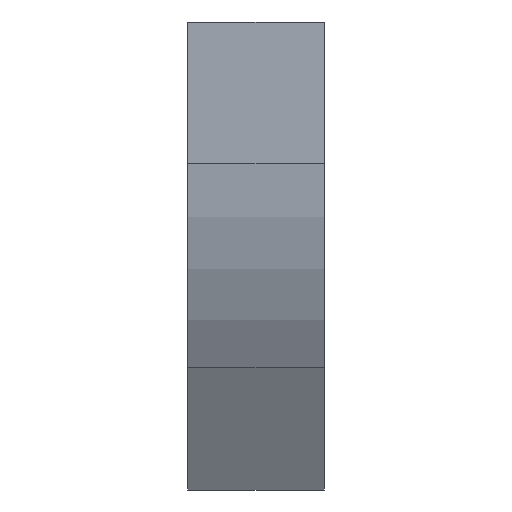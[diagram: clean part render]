
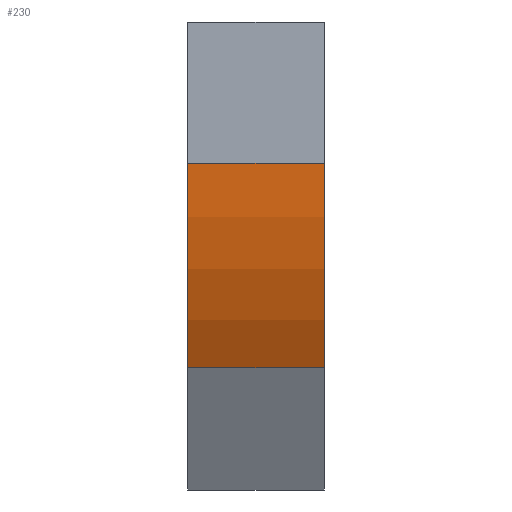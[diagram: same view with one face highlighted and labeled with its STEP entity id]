
A CAD part, left-side view. The second image highlights one B-rep face of the part: STEP entity #230.
In plain terms, the highlighted cylindrical face has radius 300 mm (diameter 600 mm), a partial arc.
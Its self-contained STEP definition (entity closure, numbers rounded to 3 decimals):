
#79 = CARTESIAN_POINT ( 'NONE',  ( 300., 0., -103.59 ) ) ;
#187 = VERTEX_POINT ( 'NONE', #437 ) ;
#202 = CYLINDRICAL_SURFACE ( 'NONE', #558, 300. ) ;
#211 = DIRECTION ( 'NONE',  ( 0., 0., -1. ) ) ;
#223 = DIRECTION ( 'NONE',  ( 0., -1., 0. ) ) ;
#230 = ADVANCED_FACE ( 'NONE', ( #1365 ), #202, .T. ) ;
#266 = EDGE_CURVE ( 'NONE', #490, #187, #794, .T. ) ;
#293 = CARTESIAN_POINT ( 'NONE',  ( 300., 0., -103.59 ) ) ;
#295 = AXIS2_PLACEMENT_3D ( 'NONE', #946, #1215, #1333 ) ;
#330 = EDGE_CURVE ( 'NONE', #187, #435, #585, .T. ) ;
#376 = VERTEX_POINT ( 'NONE', #613 ) ;
#435 = VERTEX_POINT ( 'NONE', #684 ) ;
#437 = CARTESIAN_POINT ( 'NONE',  ( 40.192, 100., -253.59 ) ) ;
#490 = VERTEX_POINT ( 'NONE', #971 ) ;
#558 = AXIS2_PLACEMENT_3D ( 'NONE', #79, #1502, #211 ) ;
#585 = LINE ( 'NONE', #1357, #1267 ) ;
#613 = CARTESIAN_POINT ( 'NONE',  ( 0., 0., -103.59 ) ) ;
#631 = EDGE_CURVE ( 'NONE', #376, #435, #747, .T. ) ;
#684 = CARTESIAN_POINT ( 'NONE',  ( 40.192, 0., -253.59 ) ) ;
#747 = CIRCLE ( 'NONE', #1664, 300. ) ;
#794 = CIRCLE ( 'NONE', #295, 300. ) ;
#844 = ORIENTED_EDGE ( 'NONE', *, *, #266, .T. ) ;
#908 = DIRECTION ( 'NONE',  ( -1., 0., 0. ) ) ;
#916 = DIRECTION ( 'NONE',  ( 0., -1., 0. ) ) ;
#931 = ORIENTED_EDGE ( 'NONE', *, *, #330, .T. ) ;
#946 = CARTESIAN_POINT ( 'NONE',  ( 300., 100., -103.59 ) ) ;
#971 = CARTESIAN_POINT ( 'NONE',  ( 0., 100., -103.59 ) ) ;
#1003 = EDGE_LOOP ( 'NONE', ( #1327, #1145, #844, #931 ) ) ;
#1036 = DIRECTION ( 'NONE',  ( 0., -1., 0. ) ) ;
#1145 = ORIENTED_EDGE ( 'NONE', *, *, #1381, .F. ) ;
#1173 = CARTESIAN_POINT ( 'NONE',  ( 0., 0., -103.59 ) ) ;
#1187 = LINE ( 'NONE', #1173, #1540 ) ;
#1215 = DIRECTION ( 'NONE',  ( 0., -1., 0. ) ) ;
#1267 = VECTOR ( 'NONE', #223, 1000. ) ;
#1327 = ORIENTED_EDGE ( 'NONE', *, *, #631, .F. ) ;
#1333 = DIRECTION ( 'NONE',  ( -1., 0., 0. ) ) ;
#1357 = CARTESIAN_POINT ( 'NONE',  ( 40.192, 0., -253.59 ) ) ;
#1365 = FACE_OUTER_BOUND ( 'NONE', #1003, .T. ) ;
#1381 = EDGE_CURVE ( 'NONE', #490, #376, #1187, .T. ) ;
#1502 = DIRECTION ( 'NONE',  ( 0., -1., 0. ) ) ;
#1540 = VECTOR ( 'NONE', #1036, 1000. ) ;
#1664 = AXIS2_PLACEMENT_3D ( 'NONE', #293, #916, #908 ) ;
